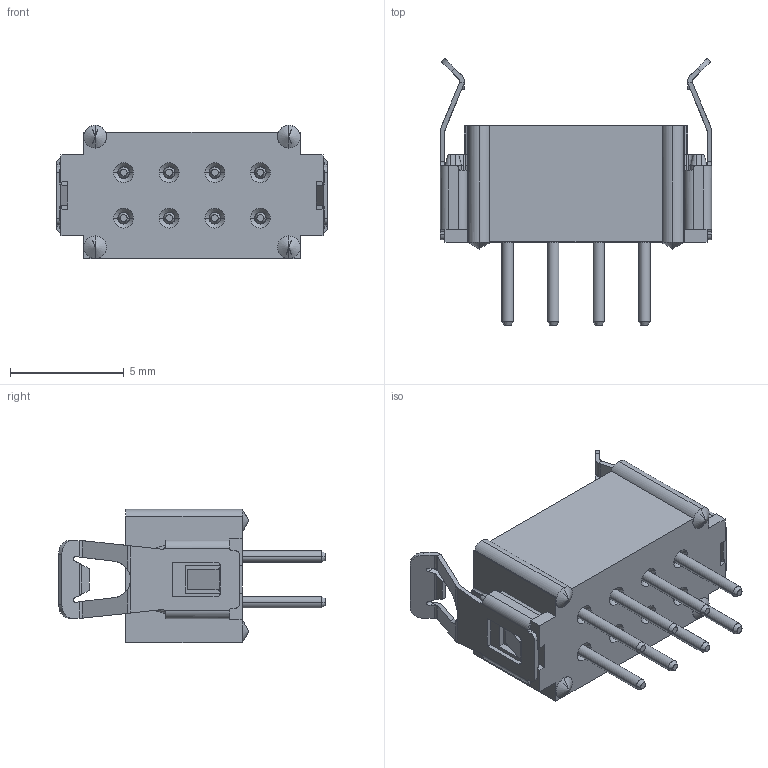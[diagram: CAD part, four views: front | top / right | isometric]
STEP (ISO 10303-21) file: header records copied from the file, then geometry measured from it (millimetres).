
FILE_DESCRIPTION((''),'2;1');
FILE_NAME('M80-8670822_ASM','2011-08-23T',('wbourne'),(''),'PRO/ENGINEER BY PARAMETRIC TECHNOLOGY CORPORATION, 2010280','PRO/ENGINEER BY PARAMETRIC TECHNOLOGY CORPORATION, 2010280','');
FILE_SCHEMA(('CONFIG_CONTROL_DESIGN','SHAPE_APPEARANCE_LAYERS_GROUPS'));
Length unit declared in the file: millimetre
Products named in the file (5): M80-1020898; M80-0200049; M80-8690822_ASM; M80-001XXXX; M80-8670822_ASM
Assembly tree (12 placements, depth 3):
  M80-8670822_ASM
    M80-8690822_ASM
      M80-1020898
      M80-0200049  x8
    M80-001XXXX  x2
Bounding box: 11.9 x 11.7 x 5.85 mm (x, y, z)
Volume: 190 mm3; surface area: 646 mm2
Topology: 11 solids, 11 shells, 547 faces, 1354 edges, 826 vertices
Faces by surface type: plane 283, cylinder 156, cone 76, bspline 32
Entity records: 11477 total; most frequent: CARTESIAN_POINT 1976, DIRECTION 1483, ORIENTED_EDGE 1474, PRESENTATION_STYLE_ASSIGNMENT 745, STYLED_ITEM 740, CURVE_STYLE 737, EDGE_CURVE 737, AXIS2_PLACEMENT_3D 497
